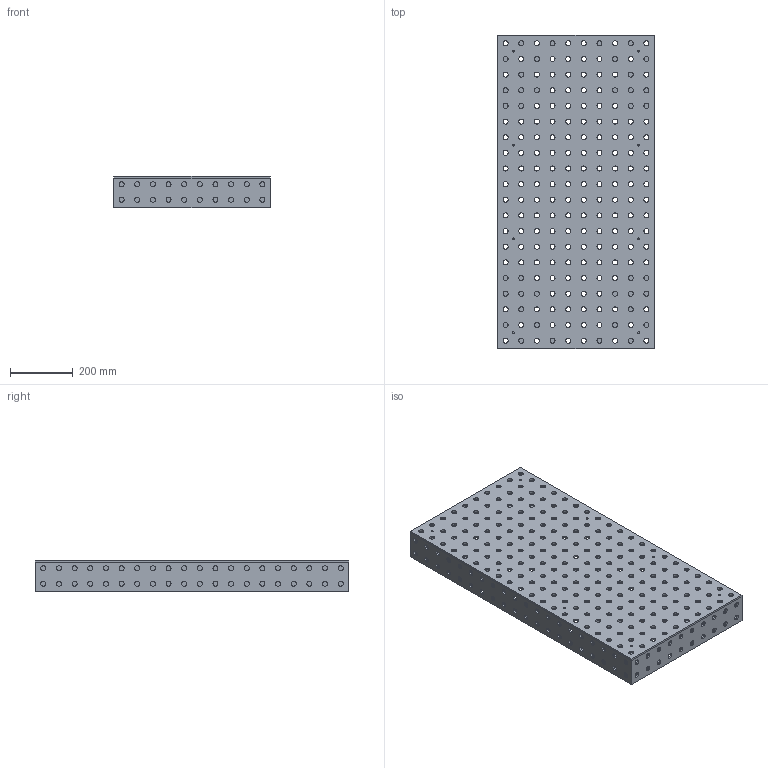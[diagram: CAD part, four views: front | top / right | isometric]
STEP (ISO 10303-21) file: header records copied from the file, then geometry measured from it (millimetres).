
FILE_DESCRIPTION(/* description */ (''),/* implementation_level */ '2;1');
FILE_NAME(/* name */ '3D Simplifi - 500x1000 G3.step',/* time_stamp */ '2026-09-09T12:03:55+02:00',/* author */ (''),/* organization */ (''),/* preprocessor_version */ 'ST-DEVELOPER v20.2',/* originating_system */ 'Autodesk Translation Framework v15.15.0.0',/* authorisation */ '');
FILE_SCHEMA (('AUTOMOTIVE_DESIGN { 1 0 10303 214 3 1 1 }'));
Length unit declared in the file: millimetre
Products named in the file (1): 3D Simplifié - 500x1000
Bounding box: 500 x 1000 x 100 mm (x, y, z)
Volume: 6448369.5 mm3; surface area: 2354208.1 mm2
Topology: 6 solids, 6 shells, 472 faces, 1380 edges, 920 vertices
Faces by surface type: cylinder 388, plane 84
Full cylindrical faces by diameter (mm): 6.5 x8, 12 x8, 16 x320, 17 x36
Entity records: 17628 total; most frequent: DIRECTION 3102, CARTESIAN_POINT 2773, ORIENTED_EDGE 2760, EDGE_CURVE 1380, AXIS2_PLACEMENT_3D 1249, EDGE_LOOP 1232, VERTEX_POINT 920, CIRCLE 776
